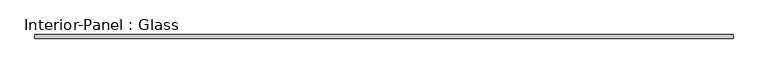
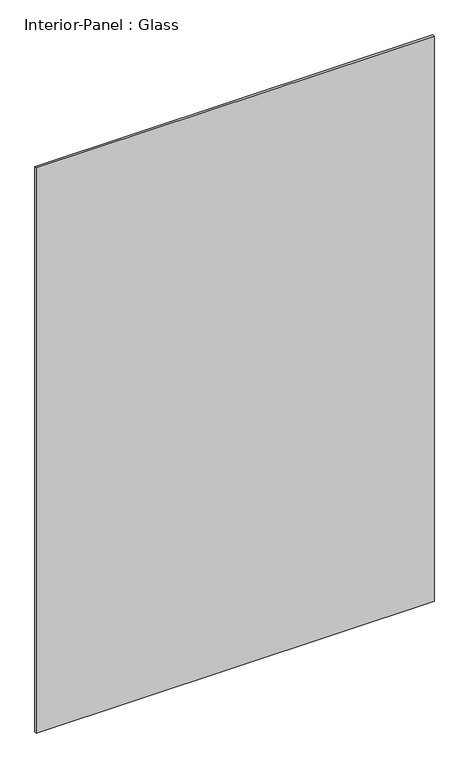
"""IFC4 building model written with IfcOpenShell, lengths in millimetres: plate geometry, Interior-Panel : Glass."""

from ifc_helpers import new_model, si_unit, origin, origin_with_axes, place, context, project, spatial, polyline, outline, extrude, source, transform, mapped, element, save


def interior_panel_glass_7099a990(model_context):
    return source(origin(), model_context, "Body", "SweptSolid", [
        extrude(outline(polyline([(870.0000724, -50.0), (-870.0000724, -50.0), (-870.0000724, -40.0), (870.0000724, -40.0), (870.0000724, -50.0)])), origin_with_axes(), (0.0, 0.0, 1.0), 2613.5),
    ])


if __name__ == "__main__":
    model = new_model("IFC4")
    model_context = context("Model", 3, world=origin())
    ifc_project = project(units=[si_unit("LENGTHUNIT", "METRE", prefix="MILLI")], contexts=[model_context])
    site = spatial("IfcSite", under=ifc_project)
    building = spatial("IfcBuilding", under=site)
    placement = place(None, origin())
    interior_panel_glass_shape = interior_panel_glass_7099a990(model_context)
    element("IfcPlate", 1, ObjectType="Interior-Panel : Glass", at=placement, inside=building, context=model_context, shape_type="MappedRepresentation", body=[
        mapped(interior_panel_glass_shape, transform((0.0, 0.0, 0.0), x_axis=(1.0, 0.0, 0.0), y_axis=(0.0, 1.0, 0.0), z_axis=(0.0, 0.0, 1.0))),
    ])
    save(model, "model.ifc")
